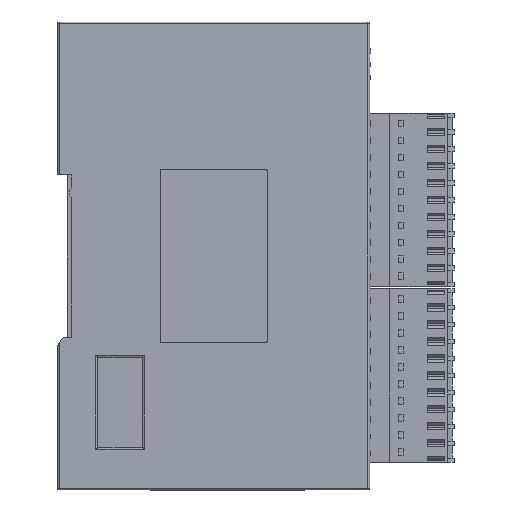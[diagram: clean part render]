
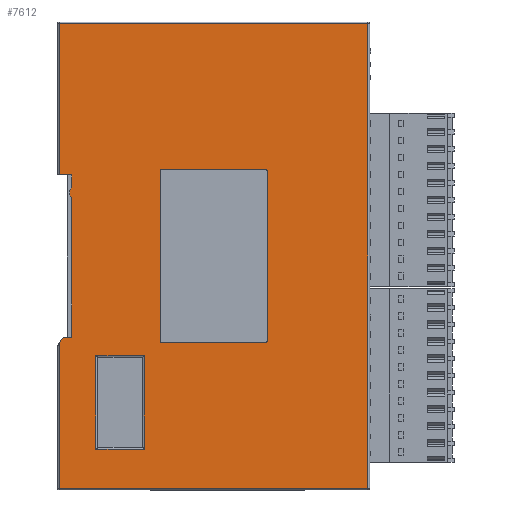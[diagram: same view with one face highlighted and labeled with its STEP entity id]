
A CAD part, left-side view. The second image highlights one B-rep face of the part: STEP entity #7612.
In plain terms, the highlighted planar face has unit normal (-1, 0, 0).
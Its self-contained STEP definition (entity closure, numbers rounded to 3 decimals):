
#7612=ADVANCED_FACE('',(#24158,#24160,#24162),#24164,.T.);
#24158=FACE_BOUND('',#24159,.T.);
#24159=EDGE_LOOP('',(#37731,#37732,#37733,#37734,#37735,#37736,#37737,#37738,#37739,
#37740,#37741));
#24160=FACE_BOUND('',#24161,.T.);
#24161=EDGE_LOOP('',(#37742,#37743,#37744,#37745,#37746,#37747,#37748,#37749));
#24162=FACE_BOUND('',#24163,.T.);
#24163=EDGE_LOOP('',(#37750,#37751,#37752,#37753));
#24164=PLANE('',#24165);
#24165=AXIS2_PLACEMENT_3D('',#24166,#24167,#24168);
#24166=CARTESIAN_POINT('',(-12.246,-44.348,-61.341));
#24167=DIRECTION('',(-1.,0.,0.));
#24168=DIRECTION('',(0.,0.,1.));
#37731=ORIENTED_EDGE('',*,*,#47235,.F.);
#37732=ORIENTED_EDGE('',*,*,#47236,.F.);
#37733=ORIENTED_EDGE('',*,*,#47237,.T.);
#37734=ORIENTED_EDGE('',*,*,#47238,.T.);
#37735=ORIENTED_EDGE('',*,*,#47239,.T.);
#37736=ORIENTED_EDGE('',*,*,#47240,.T.);
#37737=ORIENTED_EDGE('',*,*,#47241,.T.);
#37738=ORIENTED_EDGE('',*,*,#47242,.F.);
#37739=ORIENTED_EDGE('',*,*,#47243,.F.);
#37740=ORIENTED_EDGE('',*,*,#47244,.F.);
#37741=ORIENTED_EDGE('',*,*,#46955,.F.);
#37742=ORIENTED_EDGE('',*,*,#47245,.F.);
#37743=ORIENTED_EDGE('',*,*,#47246,.F.);
#37744=ORIENTED_EDGE('',*,*,#47247,.F.);
#37745=ORIENTED_EDGE('',*,*,#47248,.F.);
#37746=ORIENTED_EDGE('',*,*,#47249,.F.);
#37747=ORIENTED_EDGE('',*,*,#47250,.F.);
#37748=ORIENTED_EDGE('',*,*,#47251,.F.);
#37749=ORIENTED_EDGE('',*,*,#47252,.F.);
#37750=ORIENTED_EDGE('',*,*,#47253,.F.);
#37751=ORIENTED_EDGE('',*,*,#47254,.F.);
#37752=ORIENTED_EDGE('',*,*,#47255,.F.);
#37753=ORIENTED_EDGE('',*,*,#47256,.F.);
#46955=EDGE_CURVE('',#63040,#63038,#63042,.T.);
#47235=EDGE_CURVE('',#63579,#63040,#63580,.T.);
#47236=EDGE_CURVE('',#63581,#63579,#63582,.T.);
#47237=EDGE_CURVE('',#63581,#63583,#63584,.T.);
#47238=EDGE_CURVE('',#63583,#63585,#63586,.T.);
#47239=EDGE_CURVE('',#63585,#63587,#63588,.T.);
#47240=EDGE_CURVE('',#63587,#63589,#63590,.T.);
#47241=EDGE_CURVE('',#63589,#63591,#63592,.T.);
#47242=EDGE_CURVE('',#63593,#63591,#63594,.T.);
#47243=EDGE_CURVE('',#63595,#63593,#63596,.T.);
#47244=EDGE_CURVE('',#63038,#63595,#63597,.T.);
#47245=EDGE_CURVE('',#63598,#63599,#63600,.T.);
#47246=EDGE_CURVE('',#63601,#63598,#63602,.T.);
#47247=EDGE_CURVE('',#63603,#63601,#63604,.T.);
#47248=EDGE_CURVE('',#63605,#63603,#63606,.T.);
#47249=EDGE_CURVE('',#63607,#63605,#63608,.T.);
#47250=EDGE_CURVE('',#63609,#63607,#63610,.T.);
#47251=EDGE_CURVE('',#63611,#63609,#63612,.T.);
#47252=EDGE_CURVE('',#63599,#63611,#63613,.T.);
#47253=EDGE_CURVE('',#63614,#63615,#63616,.T.);
#47254=EDGE_CURVE('',#63617,#63614,#63618,.T.);
#47255=EDGE_CURVE('',#63619,#63617,#63620,.T.);
#47256=EDGE_CURVE('',#63615,#63619,#63621,.T.);
#63038=VERTEX_POINT('',#74628);
#63040=VERTEX_POINT('',#74633);
#63042=LINE('',#74638,#74639);
#63579=VERTEX_POINT('',#75857);
#63580=LINE('',#75858,#75859);
#63581=VERTEX_POINT('',#75861);
#63582=LINE('',#75862,#75863);
#63583=VERTEX_POINT('',#75865);
#63584=LINE('',#75866,#75867);
#63585=VERTEX_POINT('',#75869);
#63586=LINE('',#75870,#75871);
#63587=VERTEX_POINT('',#75873);
#63588=CIRCLE('',#75874,2.);
#63589=VERTEX_POINT('',#75878);
#63590=LINE('',#75879,#75880);
#63591=VERTEX_POINT('',#75882);
#63592=LINE('',#75883,#75884);
#63593=VERTEX_POINT('',#75886);
#63594=LINE('',#75887,#75888);
#63595=VERTEX_POINT('',#75890);
#63596=LINE('',#75891,#75892);
#63597=LINE('',#75894,#75895);
#63598=VERTEX_POINT('',#75897);
#63599=VERTEX_POINT('',#75898);
#63600=CIRCLE('',#75899,0.5);
#63601=VERTEX_POINT('',#75903);
#63602=LINE('',#75904,#75905);
#63603=VERTEX_POINT('',#75907);
#63604=CIRCLE('',#75908,0.5);
#63605=VERTEX_POINT('',#75912);
#63606=LINE('',#75913,#75914);
#63607=VERTEX_POINT('',#75916);
#63608=CIRCLE('',#75917,0.5);
#63609=VERTEX_POINT('',#75921);
#63610=LINE('',#75922,#75923);
#63611=VERTEX_POINT('',#75925);
#63612=CIRCLE('',#75926,0.5);
#63613=LINE('',#75930,#75931);
#63614=VERTEX_POINT('',#75933);
#63615=VERTEX_POINT('',#75934);
#63616=LINE('',#75935,#75936);
#63617=VERTEX_POINT('',#75938);
#63618=LINE('',#75939,#75940);
#63619=VERTEX_POINT('',#75942);
#63620=LINE('',#75943,#75944);
#63621=LINE('',#75946,#75947);
#74628=CARTESIAN_POINT('',(-12.246,-120.48,-50.909));
#74633=CARTESIAN_POINT('',(-12.246,-120.48,53.291));
#74638=CARTESIAN_POINT('',(-12.246,-120.48,53.291));
#74639=VECTOR('',#74640,1.);
#74640=DIRECTION('',(0.,0.,-1.));
#75857=CARTESIAN_POINT('',(-12.246,-51.28,53.291));
#75858=CARTESIAN_POINT('',(-12.246,-51.28,53.291));
#75859=VECTOR('',#75860,1.);
#75860=DIRECTION('',(0.,-1.,0.));
#75861=CARTESIAN_POINT('',(-12.246,-51.28,19.391));
#75862=CARTESIAN_POINT('',(-12.246,-51.28,19.391));
#75863=VECTOR('',#75864,1.);
#75864=DIRECTION('',(0.,0.,1.));
#75865=CARTESIAN_POINT('',(-12.246,-54.08,19.391));
#75866=CARTESIAN_POINT('',(-12.246,-51.28,19.391));
#75867=VECTOR('',#75868,1.);
#75868=DIRECTION('',(0.,-1.,0.));
#75869=CARTESIAN_POINT('',(-12.246,-54.08,16.714));
#75870=CARTESIAN_POINT('',(-12.246,-54.08,19.391));
#75871=VECTOR('',#75872,1.);
#75872=DIRECTION('',(0.,0.,-1.));
#75873=CARTESIAN_POINT('',(-12.246,-54.08,14.068));
#75874=AXIS2_PLACEMENT_3D('',#75875,#75876,#75877);
#75875=CARTESIAN_POINT('',(-12.246,-55.58,15.391));
#75876=DIRECTION('',(-1.,0.,0.));
#75877=DIRECTION('',(0.,0.75,0.661));
#75878=CARTESIAN_POINT('',(-12.246,-54.08,-17.009));
#75879=CARTESIAN_POINT('',(-12.246,-54.08,14.068));
#75880=VECTOR('',#75881,1.);
#75881=DIRECTION('',(0.,0.,-1.));
#75882=CARTESIAN_POINT('',(-12.246,-52.08,-17.009));
#75883=CARTESIAN_POINT('',(-12.246,-54.08,-17.009));
#75884=VECTOR('',#75885,1.);
#75885=DIRECTION('',(0.,1.,0.));
#75886=CARTESIAN_POINT('',(-12.246,-51.28,-18.342));
#75887=CARTESIAN_POINT('',(-12.246,-51.28,-18.342));
#75888=VECTOR('',#75889,1.);
#75889=DIRECTION('',(0.,-0.515,0.857));
#75890=CARTESIAN_POINT('',(-12.246,-51.28,-50.909));
#75891=CARTESIAN_POINT('',(-12.246,-51.28,-50.909));
#75892=VECTOR('',#75893,1.);
#75893=DIRECTION('',(0.,0.,1.));
#75894=CARTESIAN_POINT('',(-12.246,-120.48,-50.909));
#75895=VECTOR('',#75896,1.);
#75896=DIRECTION('',(0.,1.,0.));
#75897=CARTESIAN_POINT('',(-12.246,-74.38,20.691));
#75898=CARTESIAN_POINT('',(-12.246,-73.88,20.191));
#75899=AXIS2_PLACEMENT_3D('',#75900,#75901,#75902);
#75900=CARTESIAN_POINT('',(-12.246,-74.38,20.191));
#75901=DIRECTION('',(-1.,0.,0.));
#75902=DIRECTION('',(0.,0.,1.));
#75903=CARTESIAN_POINT('',(-12.246,-97.38,20.691));
#75904=CARTESIAN_POINT('',(-12.246,-97.38,20.691));
#75905=VECTOR('',#75906,1.);
#75906=DIRECTION('',(0.,1.,0.));
#75907=CARTESIAN_POINT('',(-12.246,-97.88,20.191));
#75908=AXIS2_PLACEMENT_3D('',#75909,#75910,#75911);
#75909=CARTESIAN_POINT('',(-12.246,-97.38,20.191));
#75910=DIRECTION('',(-1.,0.,0.));
#75911=DIRECTION('',(0.,-1.,0.));
#75912=CARTESIAN_POINT('',(-12.246,-97.88,-17.809));
#75913=CARTESIAN_POINT('',(-12.246,-97.88,-17.809));
#75914=VECTOR('',#75915,1.);
#75915=DIRECTION('',(0.,0.,1.));
#75916=CARTESIAN_POINT('',(-12.246,-97.38,-18.309));
#75917=AXIS2_PLACEMENT_3D('',#75918,#75919,#75920);
#75918=CARTESIAN_POINT('',(-12.246,-97.38,-17.809));
#75919=DIRECTION('',(-1.,0.,0.));
#75920=DIRECTION('',(0.,0.,-1.));
#75921=CARTESIAN_POINT('',(-12.246,-74.38,-18.309));
#75922=CARTESIAN_POINT('',(-12.246,-74.38,-18.309));
#75923=VECTOR('',#75924,1.);
#75924=DIRECTION('',(0.,-1.,0.));
#75925=CARTESIAN_POINT('',(-12.246,-73.88,-17.809));
#75926=AXIS2_PLACEMENT_3D('',#75927,#75928,#75929);
#75927=CARTESIAN_POINT('',(-12.246,-74.38,-17.809));
#75928=DIRECTION('',(-1.,0.,0.));
#75929=DIRECTION('',(0.,1.,0.));
#75930=CARTESIAN_POINT('',(-12.246,-73.88,20.191));
#75931=VECTOR('',#75932,1.);
#75932=DIRECTION('',(0.,0.,-1.));
#75933=CARTESIAN_POINT('',(-12.246,-70.34,-21.159));
#75934=CARTESIAN_POINT('',(-12.246,-59.45,-21.159));
#75935=CARTESIAN_POINT('',(-12.246,-70.34,-21.159));
#75936=VECTOR('',#75937,1.);
#75937=DIRECTION('',(0.,1.,0.));
#75938=CARTESIAN_POINT('',(-12.246,-70.34,-42.159));
#75939=CARTESIAN_POINT('',(-12.246,-70.34,-42.159));
#75940=VECTOR('',#75941,1.);
#75941=DIRECTION('',(0.,0.,1.));
#75942=CARTESIAN_POINT('',(-12.246,-59.45,-42.159));
#75943=CARTESIAN_POINT('',(-12.246,-59.45,-42.159));
#75944=VECTOR('',#75945,1.);
#75945=DIRECTION('',(0.,-1.,0.));
#75946=CARTESIAN_POINT('',(-12.246,-59.45,-21.159));
#75947=VECTOR('',#75948,1.);
#75948=DIRECTION('',(0.,0.,-1.));
